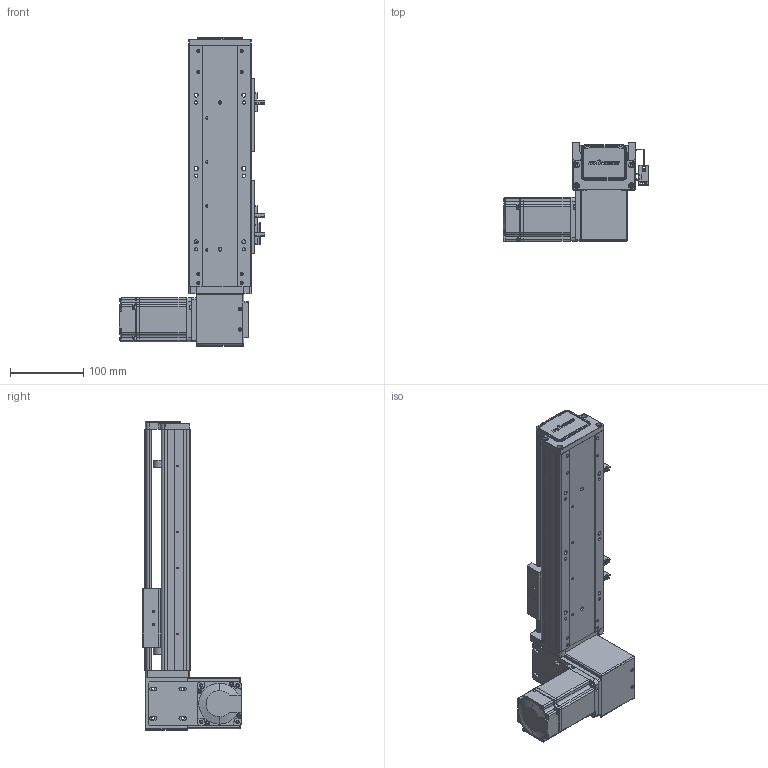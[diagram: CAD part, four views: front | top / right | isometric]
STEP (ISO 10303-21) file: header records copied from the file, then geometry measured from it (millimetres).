
FILE_DESCRIPTION (( 'STEP AP203' ), '1' );
FILE_NAME ('RY80-T-300-DL.SLDASM_150.step', '2021-03-01T01:37:26', ( '盈信电脑' ), ( '东莞市道滘镇水果街19号' ), 'SwSTEP 2.0', 'SolidWorks 2012', '' );
FILE_SCHEMA (( 'CONFIG_CONTROL_DESIGN' ));
Products named in the file (19): RY80-T-300-DL.SLDASM_150; RY80-T-M4蹟翐3; RY100-T粣創揤踡裔; RY80-T-上下折同步轮盖板; RY80-T肮祭謫狟殏俋欶; 1; RY80-T萇儂假蚾啣; 滅袉蝶18-10; RY80-T翋肮祭謫裔啣; RY80-T肮祭湍揤輸2; RY80-T肮祭湍揤輸1; RY80俋离覜茼え; RY80-T-翋肮祭謫釱; 672嫖萇羲壽假蚾釱; RY80-T綴裔啣; 覜茼ん672; RY80-T-300-DL倰第菁釱_150; RY80-T-300-DL倰第奻裔啣_150; RY80-T肮祭謫臏賑輸
Assembly tree (24 placements, depth 2):
  RY80-T-300-DL.SLDASM_150
    RY80-T-300-DL倰第菁釱_150
    RY80-T肮祭謫臏賑輸
    RY80-T-300-DL倰第奻裔啣_150
    RY80-T綴裔啣
    672嫖萇羲壽假蚾釱  x2
    覜茼ん672  x3
    RY80俋离覜茼え
    RY80-T-翋肮祭謫釱
    RY80-T肮祭湍揤輸1
    RY80-T肮祭湍揤輸2
    RY80-T萇儂假蚾啣
    RY80-T翋肮祭謫裔啣  x2
    滅袉蝶18-10  x2
    1
    RY80-T肮祭謫狟殏俋欶
    RY80-T-M4蹟翐3  x2
    RY80-T-上下折同步轮盖板
    RY100-T粣創揤踡裔
Bounding box: 198.7 x 134.5 x 420 mm (x, y, z)
Volume: 1087299.3 mm3; surface area: 427627 mm2
Topology: 24 solids, 24 shells, 2322 faces, 6348 edges, 4117 vertices
Faces by surface type: plane 1309, cylinder 812, cone 145, bspline 56
Entity records: 70979 total; most frequent: CARTESIAN_POINT 16142, ORIENTED_EDGE 11140, DIRECTION 10652, EDGE_CURVE 5570, VERTEX_POINT 3658, VECTOR 3604, LINE 3604, AXIS2_PLACEMENT_3D 3524
